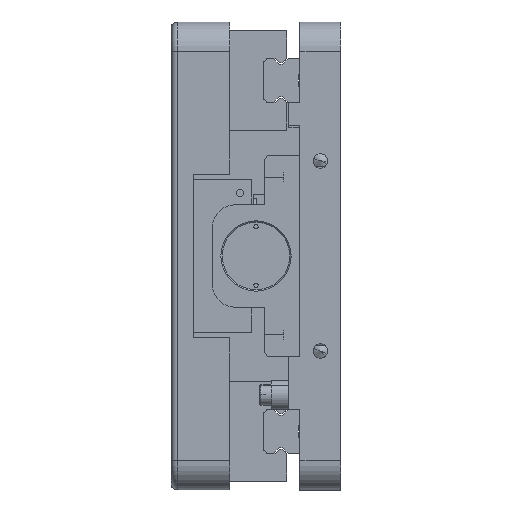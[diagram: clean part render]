
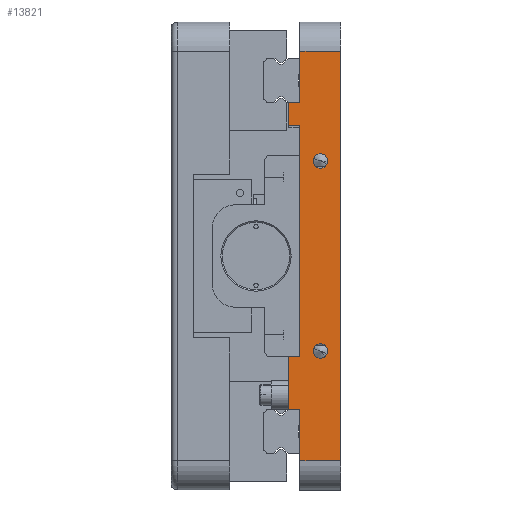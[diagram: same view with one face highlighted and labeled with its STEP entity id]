
A CAD part, left-side view. The second image highlights one B-rep face of the part: STEP entity #13821.
In plain terms, the highlighted planar face has unit normal (-1, 0, 0).
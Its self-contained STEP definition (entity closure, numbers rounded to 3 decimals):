
#482 = DIRECTION ( 'NONE',  ( 0., 0., 1. ) ) ;
#876 = CARTESIAN_POINT ( 'NONE',  ( -186.5, 0., 70. ) ) ;
#1324 = AXIS2_PLACEMENT_3D ( 'NONE', #35124, #19712, #38451 ) ;
#1452 = EDGE_CURVE ( 'NONE', #48040, #13233, #31731, .T. ) ;
#1603 = EDGE_CURVE ( 'NONE', #13233, #43458, #3567, .T. ) ;
#1895 = CARTESIAN_POINT ( 'NONE',  ( -186.5, 17.8, 70. ) ) ;
#2088 = EDGE_LOOP ( 'NONE', ( #24847, #44871 ) ) ;
#2379 = VERTEX_POINT ( 'NONE', #46138 ) ;
#2663 = FACE_BOUND ( 'NONE', #2088, .T. ) ;
#2827 = DIRECTION ( 'NONE',  ( 0., 1., 0. ) ) ;
#2954 = CARTESIAN_POINT ( 'NONE',  ( -186.5, -110.209, 44.5 ) ) ;
#3340 = DIRECTION ( 'NONE',  ( 0., 0., -1. ) ) ;
#3384 = EDGE_CURVE ( 'NONE', #13147, #48040, #28556, .T. ) ;
#3457 = LINE ( 'NONE', #20694, #48691 ) ;
#3567 = LINE ( 'NONE', #41704, #22337 ) ;
#3730 = VECTOR ( 'NONE', #2827, 1000. ) ;
#5646 = EDGE_CURVE ( 'NONE', #41635, #8728, #43757, .T. ) ;
#6000 = CARTESIAN_POINT ( 'NONE',  ( -186.5, 17.8, -80. ) ) ;
#6220 = FACE_OUTER_BOUND ( 'NONE', #40923, .T. ) ;
#6301 = AXIS2_PLACEMENT_3D ( 'NONE', #6000, #39288, #21211 ) ;
#6392 = CIRCLE ( 'NONE', #39560, 2.5 ) ;
#6498 = CARTESIAN_POINT ( 'NONE',  ( -186.5, 17.8, -80. ) ) ;
#6747 = DIRECTION ( 'NONE',  ( 0., 1., 0. ) ) ;
#7049 = EDGE_CURVE ( 'NONE', #11757, #13615, #24416, .T. ) ;
#7197 = VERTEX_POINT ( 'NONE', #25790 ) ;
#7303 = ORIENTED_EDGE ( 'NONE', *, *, #15116, .T. ) ;
#7628 = DIRECTION ( 'NONE',  ( -1., 0., 0. ) ) ;
#7915 = CARTESIAN_POINT ( 'NONE',  ( -186.5, 0., -80. ) ) ;
#7992 = DIRECTION ( 'NONE',  ( -1., 0., 0. ) ) ;
#8728 = VERTEX_POINT ( 'NONE', #26700 ) ;
#10923 = VECTOR ( 'NONE', #6747, 1000. ) ;
#11414 = CARTESIAN_POINT ( 'NONE',  ( -186.5, 7., 32.5 ) ) ;
#11757 = VERTEX_POINT ( 'NONE', #33366 ) ;
#11949 = EDGE_CURVE ( 'NONE', #38264, #24415, #3457, .T. ) ;
#12059 = CARTESIAN_POINT ( 'NONE',  ( -186.5, 17.8, -70. ) ) ;
#12376 = CARTESIAN_POINT ( 'NONE',  ( -186.5, 7., -30. ) ) ;
#12602 = ORIENTED_EDGE ( 'NONE', *, *, #11949, .T. ) ;
#12966 = EDGE_CURVE ( 'NONE', #21247, #31524, #47972, .T. ) ;
#13147 = VERTEX_POINT ( 'NONE', #46272 ) ;
#13233 = VERTEX_POINT ( 'NONE', #17172 ) ;
#13615 = VERTEX_POINT ( 'NONE', #15512 ) ;
#13821 = ADVANCED_FACE ( 'NONE', ( #31416, #2663, #6220 ), #21044, .F. ) ;
#14541 = DIRECTION ( 'NONE',  ( -1., 0., 0. ) ) ;
#15116 = EDGE_CURVE ( 'NONE', #43458, #7197, #27162, .T. ) ;
#15120 = DIRECTION ( 'NONE',  ( 0., 1., 0. ) ) ;
#15303 = LINE ( 'NONE', #6498, #16299 ) ;
#15512 = CARTESIAN_POINT ( 'NONE',  ( -186.5, 7., 30. ) ) ;
#15562 = ORIENTED_EDGE ( 'NONE', *, *, #31657, .T. ) ;
#15834 = CIRCLE ( 'NONE', #20529, 2.5 ) ;
#16077 = CARTESIAN_POINT ( 'NONE',  ( -186.5, 14., 44.5 ) ) ;
#16299 = VECTOR ( 'NONE', #21549, 1000. ) ;
#16966 = DIRECTION ( 'NONE',  ( 0., 1., 0. ) ) ;
#17028 = CARTESIAN_POINT ( 'NONE',  ( -186.5, 14., 44.5 ) ) ;
#17121 = DIRECTION ( 'NONE',  ( 0., 0., 1. ) ) ;
#17172 = CARTESIAN_POINT ( 'NONE',  ( -186.5, 14., 70. ) ) ;
#18268 = EDGE_CURVE ( 'NONE', #20466, #36809, #15834, .T. ) ;
#18798 = DIRECTION ( 'NONE',  ( 0., 0., 1. ) ) ;
#18813 = CARTESIAN_POINT ( 'NONE',  ( -186.5, 7., -32.5 ) ) ;
#18988 = ORIENTED_EDGE ( 'NONE', *, *, #29889, .T. ) ;
#19712 = DIRECTION ( 'NONE',  ( -1., 0., 0. ) ) ;
#20466 = VERTEX_POINT ( 'NONE', #12376 ) ;
#20529 = AXIS2_PLACEMENT_3D ( 'NONE', #18813, #14541, #30272 ) ;
#20694 = CARTESIAN_POINT ( 'NONE',  ( -186.5, -110.209, -34.5 ) ) ;
#21044 = PLANE ( 'NONE',  #6301 ) ;
#21211 = DIRECTION ( 'NONE',  ( 0., 0., -1. ) ) ;
#21247 = VERTEX_POINT ( 'NONE', #17028 ) ;
#21549 = DIRECTION ( 'NONE',  ( 0., 0., 1. ) ) ;
#22337 = VECTOR ( 'NONE', #33809, 1000. ) ;
#22507 = LINE ( 'NONE', #48502, #47761 ) ;
#22591 = ORIENTED_EDGE ( 'NONE', *, *, #31884, .F. ) ;
#23747 = VECTOR ( 'NONE', #46128, 1000. ) ;
#23750 = VECTOR ( 'NONE', #15120, 1000. ) ;
#24321 = ORIENTED_EDGE ( 'NONE', *, *, #3384, .T. ) ;
#24415 = VERTEX_POINT ( 'NONE', #44544 ) ;
#24416 = CIRCLE ( 'NONE', #47290, 2.5 ) ;
#24847 = ORIENTED_EDGE ( 'NONE', *, *, #7049, .F. ) ;
#25098 = CARTESIAN_POINT ( 'NONE',  ( -186.5, 14., -52.5 ) ) ;
#25790 = CARTESIAN_POINT ( 'NONE',  ( -186.5, 17.8, 52.5 ) ) ;
#26463 = EDGE_CURVE ( 'NONE', #8728, #24415, #15303, .T. ) ;
#26700 = CARTESIAN_POINT ( 'NONE',  ( -186.5, 17.8, -52.5 ) ) ;
#26761 = DIRECTION ( 'NONE',  ( 0., 0., 1. ) ) ;
#27162 = LINE ( 'NONE', #44379, #3730 ) ;
#28556 = LINE ( 'NONE', #7915, #33292 ) ;
#29889 = EDGE_CURVE ( 'NONE', #21247, #38264, #42567, .T. ) ;
#30272 = DIRECTION ( 'NONE',  ( 0., 0., 1. ) ) ;
#30780 = ORIENTED_EDGE ( 'NONE', *, *, #5646, .F. ) ;
#30898 = ORIENTED_EDGE ( 'NONE', *, *, #34011, .T. ) ;
#31416 = FACE_BOUND ( 'NONE', #48029, .T. ) ;
#31507 = ORIENTED_EDGE ( 'NONE', *, *, #1452, .T. ) ;
#31524 = VERTEX_POINT ( 'NONE', #43740 ) ;
#31657 = EDGE_CURVE ( 'NONE', #41635, #2379, #22507, .T. ) ;
#31731 = LINE ( 'NONE', #1895, #45320 ) ;
#31884 = EDGE_CURVE ( 'NONE', #36809, #20466, #44190, .T. ) ;
#32158 = DIRECTION ( 'NONE',  ( 0., 1., 0. ) ) ;
#33292 = VECTOR ( 'NONE', #26761, 1000. ) ;
#33366 = CARTESIAN_POINT ( 'NONE',  ( -186.5, 7., 35. ) ) ;
#33713 = ORIENTED_EDGE ( 'NONE', *, *, #38240, .F. ) ;
#33809 = DIRECTION ( 'NONE',  ( 0., 0., -1. ) ) ;
#34011 = EDGE_CURVE ( 'NONE', #2379, #13147, #39121, .T. ) ;
#34171 = CARTESIAN_POINT ( 'NONE',  ( -186.5, -374.012, -52.5 ) ) ;
#35004 = ORIENTED_EDGE ( 'NONE', *, *, #1603, .T. ) ;
#35124 = CARTESIAN_POINT ( 'NONE',  ( -186.5, 7., -32.5 ) ) ;
#35663 = CARTESIAN_POINT ( 'NONE',  ( -186.5, 17.8, -80. ) ) ;
#35842 = CARTESIAN_POINT ( 'NONE',  ( -186.5, 14., -34.5 ) ) ;
#36809 = VERTEX_POINT ( 'NONE', #41767 ) ;
#37599 = VECTOR ( 'NONE', #17121, 1000. ) ;
#37754 = ORIENTED_EDGE ( 'NONE', *, *, #18268, .F. ) ;
#38240 = EDGE_CURVE ( 'NONE', #31524, #7197, #45813, .T. ) ;
#38264 = VERTEX_POINT ( 'NONE', #35842 ) ;
#38451 = DIRECTION ( 'NONE',  ( 0., 0., 1. ) ) ;
#38529 = CARTESIAN_POINT ( 'NONE',  ( -186.5, 14., 52.5 ) ) ;
#39121 = LINE ( 'NONE', #12059, #39728 ) ;
#39288 = DIRECTION ( 'NONE',  ( 1., 0., 0. ) ) ;
#39560 = AXIS2_PLACEMENT_3D ( 'NONE', #42150, #7992, #482 ) ;
#39728 = VECTOR ( 'NONE', #42101, 1000. ) ;
#40923 = EDGE_LOOP ( 'NONE', ( #24321, #31507, #35004, #7303, #33713, #42979, #18988, #12602, #41561, #30780, #15562, #30898 ) ) ;
#41561 = ORIENTED_EDGE ( 'NONE', *, *, #26463, .F. ) ;
#41635 = VERTEX_POINT ( 'NONE', #25098 ) ;
#41704 = CARTESIAN_POINT ( 'NONE',  ( -186.5, 14., 80. ) ) ;
#41767 = CARTESIAN_POINT ( 'NONE',  ( -186.5, 7., -35. ) ) ;
#42101 = DIRECTION ( 'NONE',  ( 0., -1., 0. ) ) ;
#42150 = CARTESIAN_POINT ( 'NONE',  ( -186.5, 7., 32.5 ) ) ;
#42567 = LINE ( 'NONE', #16077, #23747 ) ;
#42979 = ORIENTED_EDGE ( 'NONE', *, *, #12966, .F. ) ;
#43458 = VERTEX_POINT ( 'NONE', #38529 ) ;
#43740 = CARTESIAN_POINT ( 'NONE',  ( -186.5, 17.8, 44.5 ) ) ;
#43757 = LINE ( 'NONE', #34171, #23750 ) ;
#44190 = CIRCLE ( 'NONE', #1324, 2.5 ) ;
#44379 = CARTESIAN_POINT ( 'NONE',  ( -186.5, -374.012, 52.5 ) ) ;
#44544 = CARTESIAN_POINT ( 'NONE',  ( -186.5, 17.8, -34.5 ) ) ;
#44871 = ORIENTED_EDGE ( 'NONE', *, *, #46922, .F. ) ;
#45320 = VECTOR ( 'NONE', #16966, 1000. ) ;
#45813 = LINE ( 'NONE', #35663, #37599 ) ;
#46128 = DIRECTION ( 'NONE',  ( 0., 0., -1. ) ) ;
#46138 = CARTESIAN_POINT ( 'NONE',  ( -186.5, 14., -70. ) ) ;
#46272 = CARTESIAN_POINT ( 'NONE',  ( -186.5, 0., -70. ) ) ;
#46922 = EDGE_CURVE ( 'NONE', #13615, #11757, #6392, .T. ) ;
#47290 = AXIS2_PLACEMENT_3D ( 'NONE', #11414, #7628, #18798 ) ;
#47761 = VECTOR ( 'NONE', #3340, 1000. ) ;
#47972 = LINE ( 'NONE', #2954, #10923 ) ;
#48029 = EDGE_LOOP ( 'NONE', ( #37754, #22591 ) ) ;
#48040 = VERTEX_POINT ( 'NONE', #876 ) ;
#48502 = CARTESIAN_POINT ( 'NONE',  ( -186.5, 14., -80. ) ) ;
#48691 = VECTOR ( 'NONE', #32158, 1000. ) ;
